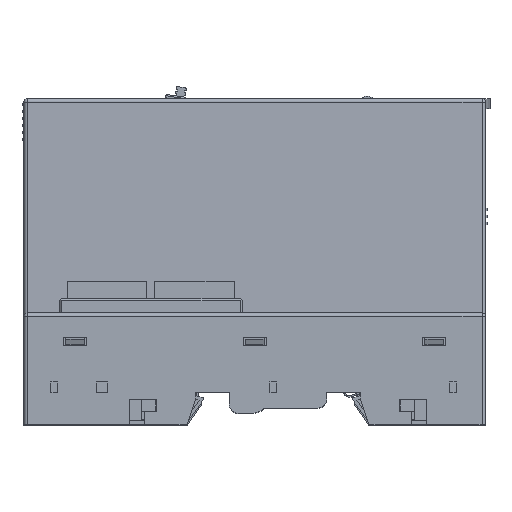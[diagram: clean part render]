
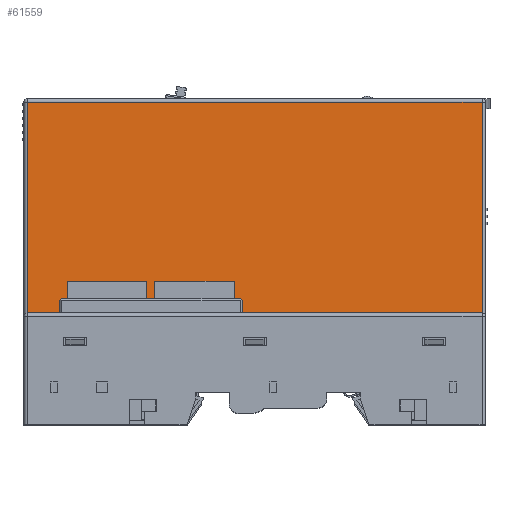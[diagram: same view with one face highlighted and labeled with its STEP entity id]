
A CAD part, top view. The second image highlights one B-rep face of the part: STEP entity #61559.
In plain terms, the highlighted planar face has unit normal (0, 0.018, 1).
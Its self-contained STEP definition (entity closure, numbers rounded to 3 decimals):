
#28643=DIRECTION('',(0.,-1.,0.017));
#28644=VECTOR('',#28643,45.27);
#28645=CARTESIAN_POINT('',(48.75,69.263,29.175));
#28646=LINE('',#28645,#28644);
#28647=DIRECTION('',(-1.,0.,0.));
#28648=VECTOR('',#28647,97.5);
#28649=CARTESIAN_POINT('',(48.75,24.,29.965));
#28650=LINE('',#28649,#28648);
#28651=DIRECTION('',(0.,1.,-0.017));
#28652=VECTOR('',#28651,45.27);
#28653=CARTESIAN_POINT('',(-48.75,24.,29.965));
#28654=LINE('',#28653,#28652);
#28655=DIRECTION('',(1.,0.,0.));
#28656=VECTOR('',#28655,97.5);
#28657=CARTESIAN_POINT('',(-48.75,69.263,29.175));
#28658=LINE('',#28657,#28656);
#40675=CARTESIAN_POINT('',(48.75,24.,29.965));
#40677=VERTEX_POINT('',#40675);
#40678=CARTESIAN_POINT('',(48.75,69.263,29.175));
#40679=VERTEX_POINT('',#40678);
#40684=CARTESIAN_POINT('',(-48.75,69.263,29.175));
#40685=VERTEX_POINT('',#40684);
#40686=CARTESIAN_POINT('',(-48.75,24.,29.965));
#40687=VERTEX_POINT('',#40686);
#61546=CARTESIAN_POINT('',(-51.102,22.,30.));
#61547=DIRECTION('',(0.,-0.017,-1.));
#61548=DIRECTION('',(-1.,0.,0.));
#61549=AXIS2_PLACEMENT_3D('',#61546,#61547,#61548);
#61550=PLANE('',#61549);
#61552=ORIENTED_EDGE('',*,*,#61551,.T.);
#61553=ORIENTED_EDGE('',*,*,#44596,.T.);
#61555=ORIENTED_EDGE('',*,*,#61554,.T.);
#61556=ORIENTED_EDGE('',*,*,#61539,.T.);
#61557=EDGE_LOOP('',(#61552,#61553,#61555,#61556));
#61558=FACE_OUTER_BOUND('',#61557,.F.);
#61559=ADVANCED_FACE('',(#61558),#61550,.F.);
#44596=EDGE_CURVE('',#40677,#40687,#28650,.T.);
#61539=EDGE_CURVE('',#40685,#40679,#28658,.T.);
#61551=EDGE_CURVE('',#40679,#40677,#28646,.T.);
#61554=EDGE_CURVE('',#40687,#40685,#28654,.T.);
